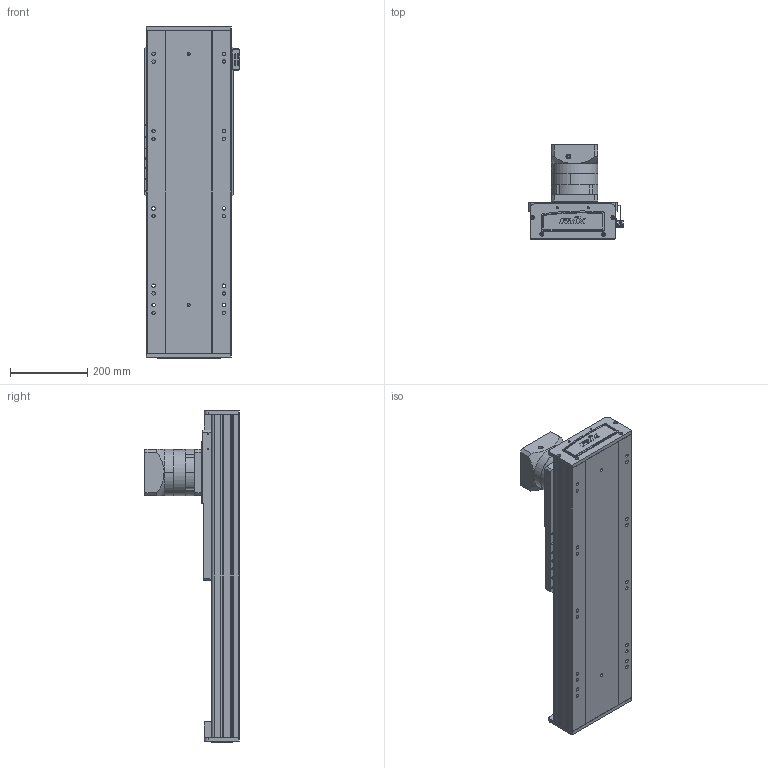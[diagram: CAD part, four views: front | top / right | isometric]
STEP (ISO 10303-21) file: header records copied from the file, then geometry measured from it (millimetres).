
FILE_DESCRIPTION (( 'STEP AP203' ), '1' );
FILE_NAME ('RY220-C-300-UK.SLDASM_0350.step', '2022-08-01T05:58:32', ( '' ), ( '' ), 'SwSTEP 2.0', 'SolidWorks 2016', '' );
FILE_SCHEMA (( 'CONFIG_CONTROL_DESIGN' ));
Length unit declared in the file: millimetre
Products named in the file (10): 滅袉蝶輸ㄗG412隅秶ㄘ; 覜茼ん674; PF115L1-S2-22-58-110-145-M8; RY220喘沭綴裔啣; RY220-齿条模组电机安装板; RY220喘沭俋离覜茼え; RY220喘沭賑輸; RY140直线电机感应器674光电安装座; RY220菁釱MK-300_0350; RY220-C-300-UK.SLDASM_0350
Assembly tree (12 placements, depth 2):
  RY220-C-300-UK.SLDASM_0350
    RY220菁釱MK-300_0350
    RY220喘沭賑輸
    RY220-齿条模组电机安装板
    PF115L1-S2-22-58-110-145-M8
    RY220喘沭綴裔啣  x2
    滅袉蝶輸ㄗG412隅秶ㄘ  x2
    RY140直线电机感应器674光电安装座
    覜茼ん674  x2
    RY220喘沭俋离覜茼え
Bounding box: 247 x 244.5 x 859 mm (x, y, z)
Volume: 8894220.8 mm3; surface area: 1665282 mm2
Topology: 18 solids, 26 shells, 1820 faces, 4865 edges, 3133 vertices
Faces by surface type: cylinder 801, plane 751, bspline 162, cone 106
Entity records: 57413 total; most frequent: CARTESIAN_POINT 15985, ORIENTED_EDGE 8418, DIRECTION 8375, EDGE_CURVE 4209, AXIS2_PLACEMENT_3D 3151, VERTEX_POINT 2759, VECTOR 2073, LINE 2073
